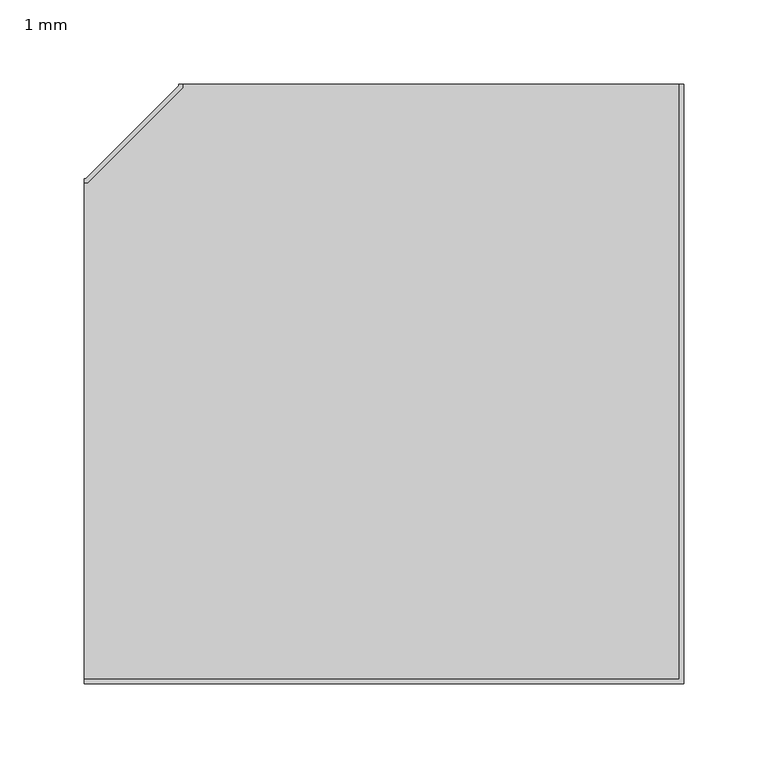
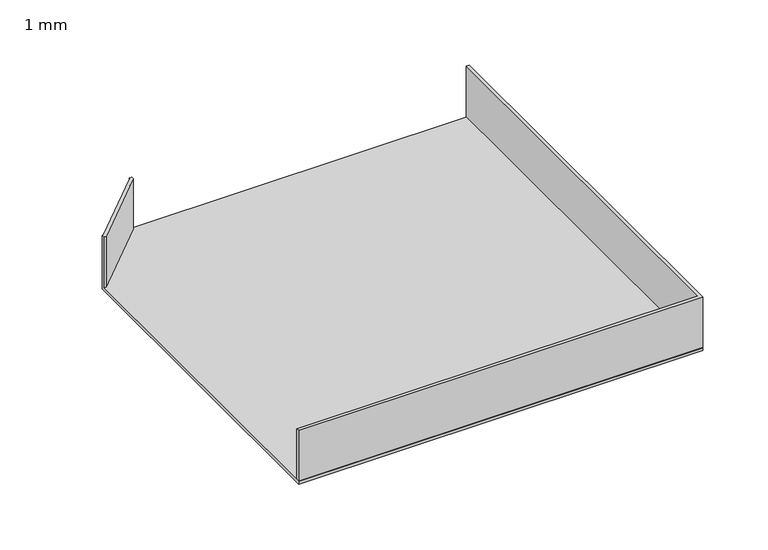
"""IFC4 building model written with IfcOpenShell, lengths in millimetres: cable carrier fitting geometry, BAKS_Kolano_koryta : 1 mm."""

from ifc_helpers import new_model, si_unit, frame, origin, place, context, project, spatial, polyline, outline, extrude, faceted_brep, source, transform, mapped, element, save


def cable_carrier_fitting_1_mm_28e4292d(model_context):
    return source(origin(), model_context, "Body", "SolidModel", [
        faceted_brep([(-206.0, 147.46, 25.0), (-206.0, 150.0, 25.0), (-206.0, 150.0, -25.0), (-206.0, -150.0, -25.0), (-206.0, -150.0, -22.46), (-206.0, 147.46, -22.46), (-203.9478976, 147.46, 25.0), (-147.46, 203.9478976, 25.0), (-147.46, 206.0, 25.0), (-150.0, 206.0, 25.0), (-150.0, 205.0, 25.0), (-205.0, 150.0, 25.0), (-205.0, 150.0, -22.46), (-205.0, 150.0, -25.0), (-150.0, 205.0, -25.0), (-150.0, 206.0, -25.0), (150.0, 206.0, -25.0), (150.0, -150.0, -25.0), (-203.9478976, 147.46, -22.46), (-150.0, 205.0, -22.46), (-147.46, 203.9478976, -22.46), (-147.46, 206.0, -22.46), (150.0, 206.0, -22.46), (150.0, -150.0, -22.46)], [[[0, 1, 2, 3, 4, 5]], [[1, 0, 6, 7, 8, 9, 10, 11]], [[2, 1, 11, 12, 13]], [[3, 2, 13, 14, 15, 16, 17]], [[6, 0, 5, 18]], [[11, 10, 19, 14, 13, 12]], [[7, 6, 18, 20]], [[9, 8, 21, 22, 16, 15]], [[10, 9, 15, 14, 19]], [[8, 7, 20, 21]], [[4, 23, 22, 21, 20, 18, 5]], [[23, 4, 3, 17]], [[22, 23, 17, 16]]]),
        extrude(outline(polyline([(-206.0, -150.0), (-206.0, -147.46), (147.46, -147.46), (147.46, 206.0), (150.0, 206.0), (150.0, -150.0), (-206.0, -150.0)])), frame((0.0, 0.0, -25.0), z_axis=(0.0, 0.0, 1.0), x_axis=(1.0, 0.0, 0.0)), (0.0, 0.0, 1.0), 50.0),
    ])


if __name__ == "__main__":
    model = new_model("IFC4")
    model_context = context("Model", 3, world=origin())
    ifc_project = project(units=[si_unit("LENGTHUNIT", "METRE", prefix="MILLI")], contexts=[model_context])
    site = spatial("IfcSite", under=ifc_project)
    building = spatial("IfcBuilding", under=site)
    placement = place(None, origin())
    cable_carrier_fitting_1_mm_shape = cable_carrier_fitting_1_mm_28e4292d(model_context)
    element("IfcCableCarrierFitting", 1, ObjectType="BAKS_Kolano_koryta : 1 mm", at=placement, inside=building, context=model_context, shape_type="MappedRepresentation", body=[
        mapped(cable_carrier_fitting_1_mm_shape, transform((0.0, 0.0, 0.0), x_axis=(1.0, 0.0, 0.0), y_axis=(0.0, 1.0, 0.0), z_axis=(0.0, 0.0, 1.0))),
    ])
    save(model, "model.ifc")
